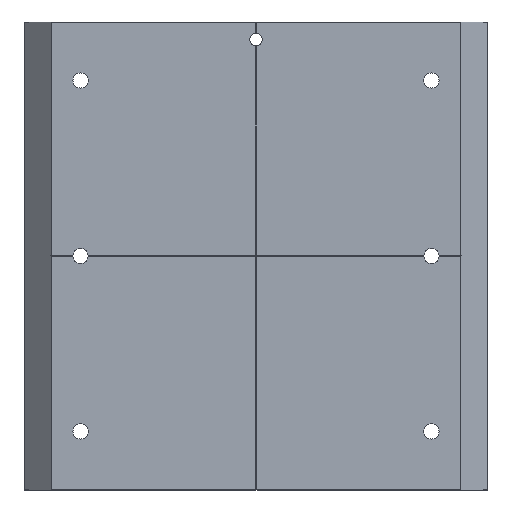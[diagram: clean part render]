
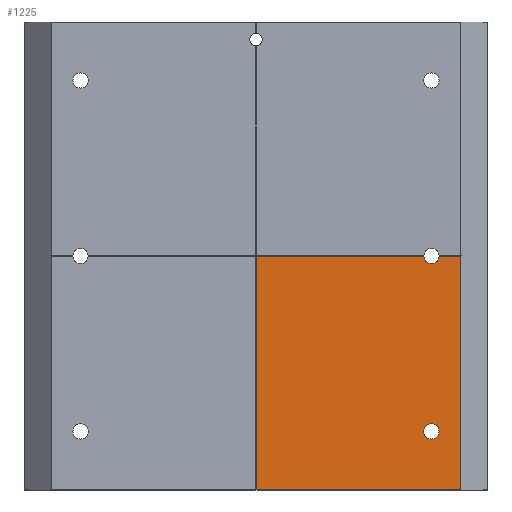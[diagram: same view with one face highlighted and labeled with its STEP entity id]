
A CAD part, top view. The second image highlights one B-rep face of the part: STEP entity #1225.
In plain terms, the highlighted planar face has unit normal (0, 0, 1).
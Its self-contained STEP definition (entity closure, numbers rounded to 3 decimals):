
#12 = DIRECTION ( 'NONE',  ( 1., 0., 0. ) ) ;
#49 = CARTESIAN_POINT ( 'NONE',  ( 70., 220., 22. ) ) ;
#91 = VECTOR ( 'NONE', #1435, 1000. ) ;
#92 = LINE ( 'NONE', #1805, #406 ) ;
#97 = DIRECTION ( 'NONE',  ( 0., 0., 1. ) ) ;
#104 = AXIS2_PLACEMENT_3D ( 'NONE', #1016, #311, #192 ) ;
#112 = ORIENTED_EDGE ( 'NONE', *, *, #499, .F. ) ;
#126 = AXIS2_PLACEMENT_3D ( 'NONE', #1833, #1684, #411 ) ;
#140 = VERTEX_POINT ( 'NONE', #919 ) ;
#155 = VECTOR ( 'NONE', #12, 1000. ) ;
#165 = LINE ( 'NONE', #580, #155 ) ;
#192 = DIRECTION ( 'NONE',  ( 0., -1., 0. ) ) ;
#200 = AXIS2_PLACEMENT_3D ( 'NONE', #1409, #697, #285 ) ;
#218 = ORIENTED_EDGE ( 'NONE', *, *, #607, .F. ) ;
#224 = CARTESIAN_POINT ( 'NONE',  ( 60., 297.4, 22. ) ) ;
#244 = CARTESIAN_POINT ( 'NONE',  ( 62.596, 299.85, 22. ) ) ;
#259 = EDGE_CURVE ( 'NONE', #1224, #140, #1549, .T. ) ;
#278 = EDGE_LOOP ( 'NONE', ( #445, #1790, #1746, #218, #1119, #112, #1282 ) ) ;
#285 = DIRECTION ( 'NONE',  ( 0., -1., 0. ) ) ;
#307 = VERTEX_POINT ( 'NONE', #1002 ) ;
#311 = DIRECTION ( 'NONE',  ( 0., 0., 1. ) ) ;
#406 = VECTOR ( 'NONE', #658, 1000. ) ;
#411 = DIRECTION ( 'NONE',  ( 0., -1., 0. ) ) ;
#445 = ORIENTED_EDGE ( 'NONE', *, *, #1087, .F. ) ;
#448 = EDGE_CURVE ( 'NONE', #1691, #1200, #1492, .T. ) ;
#469 = CARTESIAN_POINT ( 'NONE',  ( -79., 220., 22. ) ) ;
#472 = VERTEX_POINT ( 'NONE', #1568 ) ;
#495 = AXIS2_PLACEMENT_3D ( 'NONE', #469, #1032, #1043 ) ;
#499 = EDGE_CURVE ( 'NONE', #1224, #307, #1733, .T. ) ;
#502 = FACE_OUTER_BOUND ( 'NONE', #278, .T. ) ;
#580 = CARTESIAN_POINT ( 'NONE',  ( -85., 299.85, 22. ) ) ;
#607 = EDGE_CURVE ( 'NONE', #472, #652, #906, .T. ) ;
#621 = VERTEX_POINT ( 'NONE', #224 ) ;
#652 = VERTEX_POINT ( 'NONE', #1497 ) ;
#658 = DIRECTION ( 'NONE',  ( 0., -1., 0. ) ) ;
#697 = DIRECTION ( 'NONE',  ( 0., 0., 1. ) ) ;
#728 = EDGE_CURVE ( 'NONE', #1200, #1691, #777, .T. ) ;
#738 = VECTOR ( 'NONE', #1323, 1000. ) ;
#740 = VECTOR ( 'NONE', #1401, 1000. ) ;
#777 = CIRCLE ( 'NONE', #1654, 2.6 ) ;
#888 = CIRCLE ( 'NONE', #104, 2.6 ) ;
#893 = CARTESIAN_POINT ( 'NONE',  ( 60., 237.4, 22. ) ) ;
#906 = LINE ( 'NONE', #1653, #738 ) ;
#919 = CARTESIAN_POINT ( 'NONE',  ( 70., 299.85, 22. ) ) ;
#924 = CARTESIAN_POINT ( 'NONE',  ( 60., 242.6, 22. ) ) ;
#941 = EDGE_CURVE ( 'NONE', #472, #307, #92, .T. ) ;
#1002 = CARTESIAN_POINT ( 'NONE',  ( 0.15, 220., 22. ) ) ;
#1016 = CARTESIAN_POINT ( 'NONE',  ( 60., 300., 22. ) ) ;
#1032 = DIRECTION ( 'NONE',  ( 0., 0., -1. ) ) ;
#1043 = DIRECTION ( 'NONE',  ( 0., 1., 0. ) ) ;
#1087 = EDGE_CURVE ( 'NONE', #1468, #140, #165, .T. ) ;
#1119 = ORIENTED_EDGE ( 'NONE', *, *, #941, .T. ) ;
#1137 = EDGE_CURVE ( 'NONE', #621, #1468, #888, .T. ) ;
#1200 = VERTEX_POINT ( 'NONE', #893 ) ;
#1208 = CARTESIAN_POINT ( 'NONE',  ( 60., 240., 22. ) ) ;
#1224 = VERTEX_POINT ( 'NONE', #49 ) ;
#1225 = ADVANCED_FACE ( 'NONE', ( #1781, #502 ), #1770, .F. ) ;
#1282 = ORIENTED_EDGE ( 'NONE', *, *, #259, .T. ) ;
#1320 = ORIENTED_EDGE ( 'NONE', *, *, #448, .F. ) ;
#1323 = DIRECTION ( 'NONE',  ( 1., 0., 0. ) ) ;
#1384 = ORIENTED_EDGE ( 'NONE', *, *, #728, .F. ) ;
#1398 = EDGE_LOOP ( 'NONE', ( #1384, #1320 ) ) ;
#1401 = DIRECTION ( 'NONE',  ( 0., 1., 0. ) ) ;
#1409 = CARTESIAN_POINT ( 'NONE',  ( 60., 300., 22. ) ) ;
#1435 = DIRECTION ( 'NONE',  ( -1., 0., 0. ) ) ;
#1468 = VERTEX_POINT ( 'NONE', #244 ) ;
#1492 = CIRCLE ( 'NONE', #126, 2.6 ) ;
#1497 = CARTESIAN_POINT ( 'NONE',  ( 57.404, 299.85, 22. ) ) ;
#1531 = EDGE_CURVE ( 'NONE', #652, #621, #1638, .T. ) ;
#1549 = LINE ( 'NONE', #1834, #740 ) ;
#1568 = CARTESIAN_POINT ( 'NONE',  ( 0.15, 299.85, 22. ) ) ;
#1605 = CARTESIAN_POINT ( 'NONE',  ( -79., 220., 22. ) ) ;
#1638 = CIRCLE ( 'NONE', #200, 2.6 ) ;
#1653 = CARTESIAN_POINT ( 'NONE',  ( -85., 299.85, 22. ) ) ;
#1654 = AXIS2_PLACEMENT_3D ( 'NONE', #1208, #97, #1673 ) ;
#1673 = DIRECTION ( 'NONE',  ( 0., -1., 0. ) ) ;
#1684 = DIRECTION ( 'NONE',  ( 0., 0., 1. ) ) ;
#1691 = VERTEX_POINT ( 'NONE', #924 ) ;
#1733 = LINE ( 'NONE', #1605, #91 ) ;
#1746 = ORIENTED_EDGE ( 'NONE', *, *, #1531, .F. ) ;
#1770 = PLANE ( 'NONE',  #495 ) ;
#1781 = FACE_BOUND ( 'NONE', #1398, .T. ) ;
#1790 = ORIENTED_EDGE ( 'NONE', *, *, #1137, .F. ) ;
#1805 = CARTESIAN_POINT ( 'NONE',  ( 0.15, 385., 22. ) ) ;
#1833 = CARTESIAN_POINT ( 'NONE',  ( 60., 240., 22. ) ) ;
#1834 = CARTESIAN_POINT ( 'NONE',  ( 70., 220., 22. ) ) ;
